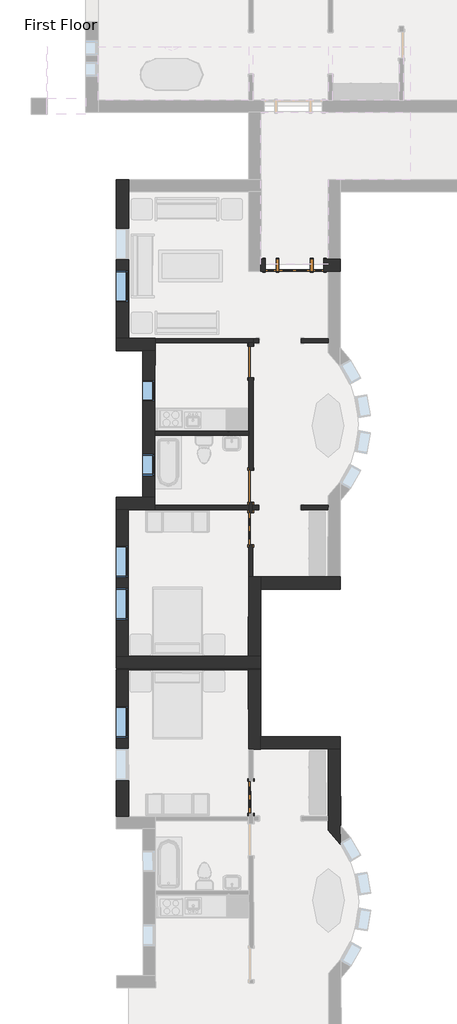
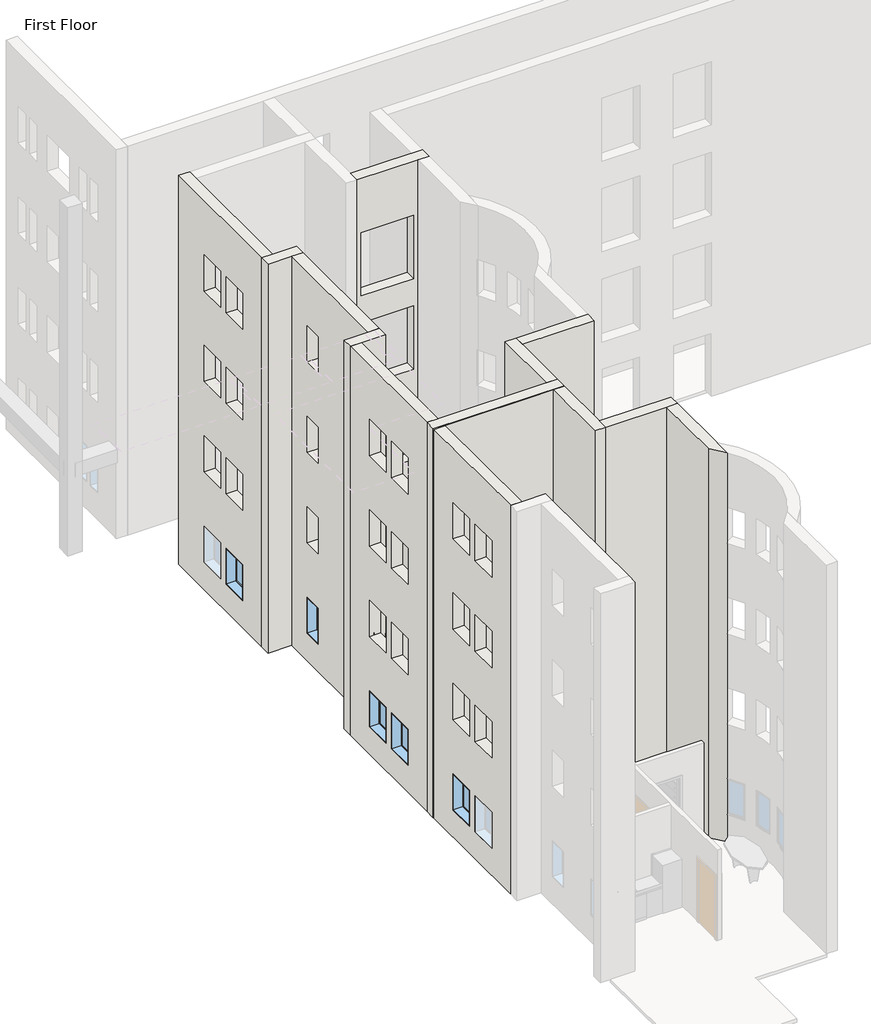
# One storey, part 8 of 21: 20 walls, 6 windows, 5 doors.
"""IFC4 building model written with IfcOpenShell, lengths in millimetres."""

from ifc_helpers import new_model, si_unit, frame, origin, origin_with_axes, place, context, project, spatial, polyline, circle_curve, outline, extrude, faceted_brep, transform, mapped, element, save
from ifc_brep_helpers import plane_surface, revolved_surface, advanced_brep
from components import door_829da954, door_2e3b4da2, door_a1797ceb, door_a3eb833a, door_dba5aa2e, window_60baf983, window_15c49d37, window_0e2fc6ce

model = new_model("IFC4")

# Units and contexts
model_context = context("Model", 3, world=origin())
ifc_project = project(units=[si_unit("LENGTHUNIT", "METRE", prefix="MILLI")], contexts=[model_context])

# Site, building, storey
site = spatial("IfcSite", under=ifc_project)
building = spatial("IfcBuilding", under=site)
storey = spatial("IfcBuildingStorey", under=building, Name="First Floor", Elevation=0.0)

# Doors
placement = place(None, origin())
door_shape = door_829da954(model_context)
element("IfcDoor", 1, ObjectType="Single-Decorative 2 : 36\" x 84\"", at=placement, inside=storey, context=model_context, shape_type="MappedRepresentation", body=[
    mapped(door_shape, transform((-26096.9008593, -15536.1896694, 0.0), x_axis=(0.0022766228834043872, -0.9999974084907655, 0.0), y_axis=(0.9999974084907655, 0.0022766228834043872, 0.0), z_axis=(0.0, 0.0, 1.0))),
])
door_2_shape = door_2e3b4da2(model_context)
element("IfcDoor", 2, ObjectType="Single-Decorative 2 : 36\" x 84\"", at=placement, inside=storey, context=model_context, shape_type="MappedRepresentation", body=[
    mapped(door_2_shape, transform((-26102.7694468, -7802.9176579, 0.0), x_axis=(0.0007588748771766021, 0.999999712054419, 0.0), y_axis=(-0.999999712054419, 0.0007588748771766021, 0.0), z_axis=(0.0, 0.0, 1.0))),
])
door_3_shape = door_a1797ceb(model_context)
element("IfcDoor", 3, ObjectType="Single-Flush : 36\" x 84\"", at=placement, inside=storey, context=model_context, shape_type="MappedRepresentation", body=[
    mapped(door_3_shape, transform((-26099.1288015, -3005.4940393, 0.0), x_axis=(0.0007588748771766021, 0.999999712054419, 0.0), y_axis=(-0.999999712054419, 0.0007588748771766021, 0.0), z_axis=(0.0, 0.0, 1.0))),
])
door_4_shape = door_a3eb833a(model_context)
element("IfcDoor", 4, ObjectType="Single-Flush : 36\" x 84\"", at=placement, inside=storey, context=model_context, shape_type="MappedRepresentation", body=[
    mapped(door_4_shape, transform((-26101.8442266, -6583.718009, 0.0), x_axis=(-0.0007588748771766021, -0.999999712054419, 0.0), y_axis=(0.999999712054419, -0.0007588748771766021, 0.0), z_axis=(0.0, 0.0, 1.0))),
])
door_5_shape = door_dba5aa2e(model_context)
element("IfcDoor", 5, ObjectType="Single-Raised Panel with Sidelights : 36\" x 84\"", at=placement, inside=storey, context=model_context, shape_type="MappedRepresentation", body=[
    mapped(door_5_shape, transform((-24841.3047997, -223.5602693, 0.0), x_axis=(0.9999997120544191, -0.0007588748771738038, 0.0), y_axis=(0.0007588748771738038, 0.9999997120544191, 0.0), z_axis=(0.0, 0.0, 1.0))),
])

# Walls
element("IfcWall", 6, ObjectType="Exterior - Brick on Mtl. Stud", at=placement, inside=storey, context=model_context, shape_type="Brep", body=[
    faceted_brep([(-23522.2264028, -400.7738358, 0.0), (-23874.6513013, -400.5063893, 0.0), (-24003.2387643, -400.4088075, 0.0), (-24002.9713178, -47.983909, 0.0), (-23874.3839563, -48.0814907, 0.0), (-23521.9589563, -48.3489373, 0.0), (-25679.6382816, -399.1366296, 0.0), (-25808.2257445, -399.0390478, 0.0), (-25807.9582981, -46.6141493, 0.0), (-25679.3708351, -46.7117311, 0.0), (-25808.2257445, -399.0390478, 13106.4), (-23874.6513013, -400.5063893, 13106.4), (-23522.2264028, -400.7738358, 13106.4), (-23521.9589563, -48.3489373, 13106.4), (-23874.3839563, -48.0814907, 13106.4), (-25807.9582981, -46.6141493, 13106.4), (-24003.2387643, -400.4088075, 2133.6), (-25679.6382816, -399.1366296, 2133.6), (-25679.6382816, -399.1366296, 6096.0), (-25679.6382816, -399.1366296, 8229.6), (-24003.2387643, -400.4088075, 8229.6), (-24003.2387643, -400.4088075, 6096.0), (-25679.6382816, -399.1366296, 3048.0), (-25679.6382816, -399.1366296, 5181.6), (-24003.2387643, -400.4088075, 5181.6), (-24003.2387643, -400.4088075, 3048.0), (-25679.6382816, -399.1366296, 9144.0), (-25679.6382816, -399.1366296, 11277.6), (-24003.2387643, -400.4088075, 11277.6), (-24003.2387643, -400.4088075, 9144.0), (-24002.9713178, -47.983909, 2133.6), (-25679.3708351, -46.7117311, 2133.6), (-25679.3708351, -46.7117311, 6096.0), (-24002.9713178, -47.983909, 6096.0), (-24002.9713178, -47.983909, 8229.6), (-25679.3708351, -46.7117311, 8229.6), (-25679.3708351, -46.7117311, 3048.0), (-24002.9713178, -47.983909, 3048.0), (-24002.9713178, -47.983909, 5181.6), (-25679.3708351, -46.7117311, 5181.6), (-25679.3708351, -46.7117311, 9144.0), (-24002.9713178, -47.983909, 9144.0), (-24002.9713178, -47.983909, 11277.6), (-25679.3708351, -46.7117311, 11277.6)], [[[0, 1, 2, 3, 4, 5]], [[6, 7, 8, 9]], [[10, 11, 12, 13, 14, 15]], [[16, 2, 1, 0, 12, 11, 10, 7, 6, 17], [18, 19, 20, 21], [22, 23, 24, 25], [26, 27, 28, 29]], [[5, 4, 3, 30, 31, 9, 8, 15, 14, 13], [32, 33, 34, 35], [36, 37, 38, 39], [40, 41, 42, 43]], [[7, 10, 15, 8]], [[12, 0, 5, 13]], [[30, 3, 2, 16]], [[31, 30, 16, 17]], [[9, 31, 17, 6]], [[33, 32, 18, 21]], [[34, 33, 21, 20]], [[35, 34, 20, 19]], [[32, 35, 19, 18]], [[37, 36, 22, 25]], [[38, 37, 25, 24]], [[39, 38, 24, 23]], [[36, 39, 23, 22]], [[41, 40, 26, 29]], [[42, 41, 29, 28]], [[43, 42, 28, 27]], [[40, 43, 27, 26]]]),
])
element("IfcWall", 7, ObjectType="Exterior - Brick on Mtl. Stud", at=placement, inside=storey, context=model_context, shape_type="Brep", body=[
    faceted_brep([(-29979.3234858, -11825.8769968, 0.0), (-25816.8996844, -11829.0357566, 0.0), (-25816.8996844, -11829.0357566, 13106.4), (-29979.3234858, -11825.8769968, 13106.4), (-29979.0560394, -11473.4520983, 0.0), (-29979.0560394, -11473.4520983, 13106.4), (-29626.6311408, -11473.7195448, 13106.4), (-26169.0571364, -11476.3434116, 13106.4), (-25816.6322379, -11476.6108581, 13106.4), (-25816.6322379, -11476.6108581, 0.0), (-26169.0571364, -11476.3434116, 0.0), (-29626.6311408, -11473.7195448, 0.0)], [[[0, 1, 2, 3]], [[4, 5, 6, 7, 8, 9, 10, 11]], [[1, 0, 4, 11, 10, 9]], [[3, 2, 8, 7, 6, 5]], [[2, 1, 9, 8]], [[0, 3, 5, 4]]]),
])
element("IfcWall", 8, ObjectType="Exterior - Brick on Mtl. Stud", at=placement, inside=storey, context=model_context, shape_type="Brep", body=[
    faceted_brep([(-25816.6322379, -11476.6108581, 0.0), (-25815.1648964, -9543.0364148, 0.0), (-25814.8974499, -9190.6115163, 0.0), (-25814.8974499, -9190.6115163, 13106.4), (-25815.1648964, -9543.0364148, 13106.4), (-25816.6322379, -11476.6108581, 13106.4), (-26169.0571364, -11476.3434116, 0.0), (-26169.0571364, -11476.3434116, 13106.4), (-26167.3223485, -9190.3440698, 13106.4), (-26167.3223485, -9190.3440698, 0.0)], [[[0, 1, 2, 3, 4, 5]], [[6, 7, 8, 9]], [[2, 1, 0, 6, 9]], [[5, 4, 3, 8, 7]], [[3, 2, 9, 8]], [[0, 5, 7, 6]]]),
])
element("IfcWall", 9, ObjectType="Exterior - Brick on Mtl. Stud", at=placement, inside=storey, context=model_context, shape_type="Brep", body=[
    faceted_brep([(-25815.1648964, -9543.0364148, 0.0), (-23529.1655547, -9544.7712028, 0.0), (-23529.1655547, -9544.7712028, 13106.4), (-25815.1648964, -9543.0364148, 13106.4), (-25814.8974499, -9190.6115163, 0.0), (-25814.8974499, -9190.6115163, 13106.4), (-23881.3230067, -9192.0788578, 13106.4), (-23528.8981082, -9192.3463043, 13106.4), (-23528.8981082, -9192.3463043, 0.0), (-23881.3230067, -9192.0788578, 0.0)], [[[0, 1, 2, 3]], [[4, 5, 6, 7, 8, 9]], [[1, 0, 4, 9, 8]], [[3, 2, 7, 6, 5]], [[2, 1, 8, 7]], [[0, 3, 5, 4]]]),
])
element("IfcWall", 10, ObjectType="Exterior - Brick on Mtl. Stud", at=placement, inside=storey, context=model_context, shape_type="SweptSolid", body=[
    extrude(outline(polyline([(176.2125, 0.0), (4395.7875, 0.0), (4395.7875, -13106.4), (176.2125, -13106.4), (176.2125, 0.0)]), holes=[polyline([(2438.4, -8229.6), (3352.8, -8229.6), (3352.8, -7010.4), (2438.4, -7010.4), (2438.4, -8229.6)]), polyline([(1219.2000001, -8229.6), (2133.6000001, -8229.6), (2133.6000001, -7010.4), (1219.2000001, -7010.4), (1219.2000001, -8229.6)]), polyline([(2438.4, -5181.6), (3352.8, -5181.6), (3352.8, -3962.4), (2438.4, -3962.4), (2438.4, -5181.6)]), polyline([(1219.2000001, -5181.6), (2133.6000001, -5181.6), (2133.6000001, -3962.4), (1219.2000001, -3962.4), (1219.2000001, -5181.6)]), polyline([(2438.4, -11277.6), (3352.8, -11277.6), (3352.8, -10058.4), (2438.4, -10058.4), (2438.4, -11277.6)]), polyline([(1219.2000001, -11277.6), (2133.6000001, -11277.6), (2133.6000001, -10058.4), (1219.2000001, -10058.4), (1219.2000001, -11277.6)]), polyline([(2438.4, -2133.6), (3352.8, -2133.6), (3352.8, -914.4), (2438.4, -914.4), (2438.4, -2133.6)]), polyline([(1219.2000001, -2133.6), (2133.6000001, -2133.6), (2133.6000001, -914.4), (1219.2000001, -914.4), (1219.2000001, -2133.6)])]), frame((-29626.7648641, -11649.9319941, 0.0), z_axis=(-0.999999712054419, 0.0007588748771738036, 0.0), x_axis=(0.0007588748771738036, 0.999999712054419, 0.0)), (0.0, 0.0, 1.0), 352.425),
])
element("IfcWall", 11, ObjectType="Exterior - Brick on Mtl. Stud", at=placement, inside=storey, context=model_context, shape_type="Brep", body=[
    faceted_brep([(-29975.8539099, -7253.8783133, 0.0), (-29623.4290114, -7254.1457598, 0.0), (-28861.4292308, -7254.7240225, 0.0), (-28861.4292308, -7254.7240225, 13106.4), (-29623.4290114, -7254.1457598, 13106.4), (-29975.8539099, -7253.8783133, 13106.4), (-29975.5864634, -6901.4534148, 0.0), (-29975.5864634, -6901.4534148, 13106.4), (-29213.5866828, -6902.0316775, 13106.4), (-28861.1617843, -6902.2991239, 13106.4), (-28861.1617843, -6902.2991239, 0.0), (-29213.5866828, -6902.0316775, 0.0)], [[[0, 1, 2, 3, 4, 5]], [[6, 7, 8, 9, 10, 11]], [[2, 1, 0, 6, 11, 10]], [[5, 4, 3, 9, 8, 7]], [[0, 5, 7, 6]], [[3, 2, 10, 9]]]),
])
element("IfcWall", 12, ObjectType="Exterior - Brick on Mtl. Stud", at=placement, inside=storey, context=model_context, shape_type="Brep", body=[
    faceted_brep([(-28857.9596549, -2682.725339, 0.0), (-28859.7137182, -4994.1246734, 0.0), (-28859.8100954, -5121.1246368, 0.0), (-28861.1617843, -6902.2991239, 0.0), (-29213.5866828, -6902.0316775, 0.0), (-29210.3845534, -2682.4578925, 0.0), (-28861.1617843, -6902.2991239, 13106.4), (-28857.9596549, -2682.725339, 13106.4), (-29210.3845534, -2682.4578925, 13106.4), (-29213.5866828, -6902.0316775, 13106.4), (-28860.6871271, -6276.824304, 8229.6), (-28860.2245169, -5667.2244796, 8229.6), (-28860.2245169, -5667.2244796, 7010.4), (-28860.6871271, -6276.824304, 7010.4), (-28859.0679916, -4143.2249184, 8229.6), (-28858.6053815, -3533.6250939, 8229.6), (-28858.6053815, -3533.6250939, 7010.4), (-28859.0679916, -4143.2249184, 7010.4), (-28860.6871271, -6276.824304, 5181.6), (-28860.2245169, -5667.2244796, 5181.6), (-28860.2245169, -5667.2244796, 3962.4), (-28860.6871271, -6276.824304, 3962.4), (-28859.0679916, -4143.2249184, 5181.6), (-28858.6053815, -3533.6250939, 5181.6), (-28858.6053815, -3533.6250939, 3962.4), (-28859.0679916, -4143.2249184, 3962.4), (-28860.6871271, -6276.824304, 11277.6), (-28860.2245169, -5667.2244796, 11277.6), (-28860.2245169, -5667.2244796, 10058.4), (-28860.6871271, -6276.824304, 10058.4), (-28859.0679916, -4143.2249184, 11277.6), (-28858.6053815, -3533.6250939, 11277.6), (-28858.6053815, -3533.6250939, 10058.4), (-28859.0679916, -4143.2249184, 10058.4), (-28860.6871271, -6276.824304, 2133.6), (-28860.2245169, -5667.2244796, 2133.6), (-28860.2245169, -5667.2244796, 914.4), (-28860.6871271, -6276.824304, 914.4), (-28859.0679916, -4143.2249184, 2133.6), (-28858.6053815, -3533.6250939, 2133.6), (-28858.6053815, -3533.6250939, 914.4), (-28859.0679916, -4143.2249184, 914.4), (-29213.1120256, -6276.5568576, 8229.6), (-29213.1120256, -6276.5568576, 7010.4), (-29212.6494154, -5666.9570331, 7010.4), (-29212.6494154, -5666.9570331, 8229.6), (-29211.4928901, -4142.9574719, 8229.6), (-29211.4928901, -4142.9574719, 7010.4), (-29211.03028, -3533.3576475, 7010.4), (-29211.03028, -3533.3576475, 8229.6), (-29213.1120256, -6276.5568576, 5181.6), (-29213.1120256, -6276.5568576, 3962.4), (-29212.6494154, -5666.9570331, 3962.4), (-29212.6494154, -5666.9570331, 5181.6), (-29211.4928901, -4142.9574719, 5181.6), (-29211.4928901, -4142.9574719, 3962.4), (-29211.03028, -3533.3576475, 3962.4), (-29211.03028, -3533.3576475, 5181.6), (-29213.1120256, -6276.5568576, 11277.6), (-29213.1120256, -6276.5568576, 10058.4), (-29212.6494154, -5666.9570331, 10058.4), (-29212.6494154, -5666.9570331, 11277.6), (-29211.4928901, -4142.9574719, 11277.6), (-29211.4928901, -4142.9574719, 10058.4), (-29211.03028, -3533.3576475, 10058.4), (-29211.03028, -3533.3576475, 11277.6), (-29213.1120256, -6276.5568576, 2133.6), (-29213.1120256, -6276.5568576, 914.4), (-29212.6494154, -5666.9570331, 914.4), (-29212.6494154, -5666.9570331, 2133.6), (-29211.4928901, -4142.9574719, 2133.6), (-29211.4928901, -4142.9574719, 914.4), (-29211.03028, -3533.3576475, 914.4), (-29211.03028, -3533.3576475, 2133.6)], [[[0, 1, 2, 3, 4, 5]], [[6, 7, 8, 9]], [[3, 2, 1, 0, 7, 6], [10, 11, 12, 13], [14, 15, 16, 17], [18, 19, 20, 21], [22, 23, 24, 25], [26, 27, 28, 29], [30, 31, 32, 33], [34, 35, 36, 37], [38, 39, 40, 41]], [[4, 9, 8, 5], [42, 43, 44, 45], [46, 47, 48, 49], [50, 51, 52, 53], [54, 55, 56, 57], [58, 59, 60, 61], [62, 63, 64, 65], [66, 67, 68, 69], [70, 71, 72, 73]], [[3, 6, 9, 4]], [[0, 5, 8, 7]], [[43, 42, 10, 13]], [[44, 43, 13, 12]], [[45, 44, 12, 11]], [[42, 45, 11, 10]], [[47, 46, 14, 17]], [[48, 47, 17, 16]], [[49, 48, 16, 15]], [[46, 49, 15, 14]], [[51, 50, 18, 21]], [[52, 51, 21, 20]], [[53, 52, 20, 19]], [[50, 53, 19, 18]], [[55, 54, 22, 25]], [[56, 55, 25, 24]], [[57, 56, 24, 23]], [[54, 57, 23, 22]], [[59, 58, 26, 29]], [[60, 59, 29, 28]], [[61, 60, 28, 27]], [[58, 61, 27, 26]], [[63, 62, 30, 33]], [[64, 63, 33, 32]], [[65, 64, 32, 31]], [[62, 65, 31, 30]], [[67, 66, 34, 37]], [[68, 67, 37, 36]], [[69, 68, 36, 35]], [[66, 69, 35, 34]], [[71, 70, 38, 41]], [[72, 71, 41, 40]], [[73, 72, 40, 39]], [[70, 73, 39, 38]]]),
])
element("IfcWall", 13, ObjectType="Exterior - Brick on Mtl. Stud", at=placement, inside=storey, context=model_context, shape_type="Brep", body=[
    faceted_brep([(-28857.6922084, -2330.3004404, 13106.4), (-28857.6922084, -2330.3004404, 0.0), (-29619.691989, -2329.7221778, 0.0), (-29972.1168875, -2329.4547313, 0.0), (-29972.1168875, -2329.4547313, 13106.4), (-29619.691989, -2329.7221778, 13106.4), (-28857.9596549, -2682.725339, 0.0), (-28857.9596549, -2682.725339, 13106.4), (-29210.3845534, -2682.4578925, 13106.4), (-29972.384334, -2681.8796298, 13106.4), (-29972.384334, -2681.8796298, 0.0), (-29210.3845534, -2682.4578925, 0.0)], [[[0, 1, 2, 3, 4, 5]], [[6, 7, 8, 9, 10, 11]], [[3, 2, 1, 6, 11, 10]], [[0, 5, 4, 9, 8, 7]], [[0, 7, 6, 1]], [[4, 3, 10, 9]]]),
])
element("IfcWall", 14, ObjectType="Exterior - Brick on Mtl. Stud", at=placement, inside=storey, context=model_context, shape_type="Brep", body=[
    faceted_brep([(-29616.222413, 2242.2765057, 0.0), (-29616.4898595, 1889.8516072, 0.0), (-29619.691989, -2329.7221778, 0.0), (-29972.1168875, -2329.4547313, 0.0), (-29968.6473115, 2242.5439522, 0.0), (-29619.691989, -2329.7221778, 13106.4), (-29616.4898595, 1889.8516072, 13106.4), (-29616.222413, 2242.2765057, 13106.4), (-29968.6473115, 2242.5439522, 13106.4), (-29972.1168875, -2329.4547313, 13106.4), (-29618.900492, -1286.7349781, 8229.6), (-29618.2065768, -372.3352414, 8229.6), (-29618.2065768, -372.3352414, 7010.4), (-29618.900492, -1286.7349781, 7010.4), (-29617.9752717, -67.5353292, 8229.6), (-29617.2813565, 846.8644075, 8229.6), (-29617.2813565, 846.8644075, 7010.4), (-29617.9752717, -67.5353292, 7010.4), (-29618.900492, -1286.7349781, 5181.6), (-29618.2065768, -372.3352414, 5181.6), (-29618.2065768, -372.3352414, 3962.4), (-29618.900492, -1286.7349781, 3962.4), (-29617.9752717, -67.5353292, 5181.6), (-29617.2813565, 846.8644075, 5181.6), (-29617.2813565, 846.8644075, 3962.4), (-29617.9752717, -67.5353292, 3962.4), (-29618.900492, -1286.7349781, 11277.6), (-29618.2065768, -372.3352414, 11277.6), (-29618.2065768, -372.3352414, 10058.4), (-29618.900492, -1286.7349781, 10058.4), (-29617.9752717, -67.5353292, 11277.6), (-29617.2813565, 846.8644075, 11277.6), (-29617.2813565, 846.8644075, 10058.4), (-29617.9752717, -67.5353292, 10058.4), (-29618.900492, -1286.7349781, 2133.6), (-29618.2065768, -372.3352414, 2133.6), (-29618.2065768, -372.3352414, 914.4), (-29618.900492, -1286.7349781, 914.4), (-29617.9752717, -67.5353292, 2133.6), (-29617.2813565, 846.8644075, 2133.6), (-29617.2813565, 846.8644075, 914.4), (-29617.9752717, -67.5353292, 914.4), (-29971.3253905, -1286.4675316, 8229.6), (-29971.3253905, -1286.4675316, 7010.4), (-29970.6314753, -372.0677949, 7010.4), (-29970.6314753, -372.0677949, 8229.6), (-29970.4001702, -67.2678827, 8229.6), (-29970.4001702, -67.2678827, 7010.4), (-29969.706255, 847.131854, 7010.4), (-29969.706255, 847.131854, 8229.6), (-29971.3253905, -1286.4675316, 5181.6), (-29971.3253905, -1286.4675316, 3962.4), (-29970.6314753, -372.0677949, 3962.4), (-29970.6314753, -372.0677949, 5181.6), (-29970.4001702, -67.2678827, 5181.6), (-29970.4001702, -67.2678827, 3962.4), (-29969.706255, 847.131854, 3962.4), (-29969.706255, 847.131854, 5181.6), (-29971.3253905, -1286.4675316, 11277.6), (-29971.3253905, -1286.4675316, 10058.4), (-29970.6314753, -372.0677949, 10058.4), (-29970.6314753, -372.0677949, 11277.6), (-29970.4001702, -67.2678827, 11277.6), (-29970.4001702, -67.2678827, 10058.4), (-29969.706255, 847.131854, 10058.4), (-29969.706255, 847.131854, 11277.6), (-29971.3253905, -1286.4675316, 2133.6), (-29971.3253905, -1286.4675316, 914.4), (-29970.6314753, -372.0677949, 914.4), (-29970.6314753, -372.0677949, 2133.6), (-29970.4001702, -67.2678827, 2133.6), (-29970.4001702, -67.2678827, 914.4), (-29969.706255, 847.131854, 914.4), (-29969.706255, 847.131854, 2133.6)], [[[0, 1, 2, 3, 4]], [[5, 6, 7, 8, 9]], [[2, 1, 0, 7, 6, 5], [10, 11, 12, 13], [14, 15, 16, 17], [18, 19, 20, 21], [22, 23, 24, 25], [26, 27, 28, 29], [30, 31, 32, 33], [34, 35, 36, 37], [38, 39, 40, 41]], [[3, 9, 8, 4], [42, 43, 44, 45], [46, 47, 48, 49], [50, 51, 52, 53], [54, 55, 56, 57], [58, 59, 60, 61], [62, 63, 64, 65], [66, 67, 68, 69], [70, 71, 72, 73]], [[2, 5, 9, 3]], [[7, 0, 4, 8]], [[43, 42, 10, 13]], [[44, 43, 13, 12]], [[45, 44, 12, 11]], [[42, 45, 11, 10]], [[47, 46, 14, 17]], [[48, 47, 17, 16]], [[49, 48, 16, 15]], [[46, 49, 15, 14]], [[51, 50, 18, 21]], [[52, 51, 21, 20]], [[53, 52, 20, 19]], [[50, 53, 19, 18]], [[55, 54, 22, 25]], [[56, 55, 25, 24]], [[57, 56, 24, 23]], [[54, 57, 23, 22]], [[59, 58, 26, 29]], [[60, 59, 29, 28]], [[61, 60, 28, 27]], [[58, 61, 27, 26]], [[63, 62, 30, 33]], [[64, 63, 33, 32]], [[65, 64, 32, 31]], [[62, 65, 31, 30]], [[67, 66, 34, 37]], [[68, 67, 37, 36]], [[69, 68, 36, 35]], [[66, 69, 35, 34]], [[71, 70, 38, 41]], [[72, 71, 41, 40]], [[73, 72, 40, 39]], [[70, 73, 39, 38]]]),
])
element("IfcWall", 15, ObjectType="Exterior - Brick on Mtl. Stud", at=placement, inside=storey, context=model_context, shape_type="Brep", body=[
    faceted_brep([(-29803.1452863, -11871.1428922, 0.0), (-29626.3298516, -11870.7403491, 0.0), (-26168.763812, -11862.8687548, 0.0), (-25816.3397253, -11862.0664159, 0.0), (-25816.3397253, -11862.0664159, 13106.4), (-26168.763812, -11862.8687548, 13106.4), (-29626.3298516, -11870.7403491, 13106.4), (-29803.1452863, -11871.1428922, 13106.4), (-29802.8778386, -11518.71637, 0.0), (-29802.8778386, -11518.71637, 13106.4), (-25817.1420641, -11509.6423293, 13106.4), (-25817.1420641, -11509.6423293, 0.0)], [[[0, 1, 2, 3, 4, 5, 6, 7]], [[8, 9, 10, 11]], [[3, 2, 1, 0, 8, 11]], [[7, 6, 5, 4, 10, 9]], [[4, 3, 11, 10]], [[0, 7, 9, 8]]]),
])
element("IfcWall", 16, ObjectType="Exterior - Brick on Mtl. Stud", at=placement, inside=storey, context=model_context, shape_type="Brep", body=[
    faceted_brep([(-26168.763812, -11862.8687548, 0.0), (-26163.5594521, -14148.8628306, 0.0), (-26163.5594521, -14148.8628306, 13106.4), (-26168.763812, -11862.8687548, 13106.4), (-25816.3397253, -11862.0664159, 0.0), (-25816.3397253, -11862.0664159, 13106.4), (-25811.9377042, -13795.6364051, 13106.4), (-25811.1353654, -14148.0604918, 13106.4), (-25811.1353654, -14148.0604918, 0.0), (-25811.9377042, -13795.6364051, 0.0)], [[[0, 1, 2, 3]], [[4, 5, 6, 7, 8, 9]], [[1, 0, 4, 9, 8]], [[3, 2, 7, 6, 5]], [[2, 1, 8, 7]], [[0, 3, 5, 4]]]),
])
element("IfcWall", 17, ObjectType="Exterior - Brick on Mtl. Stud", at=placement, inside=storey, context=model_context, shape_type="Brep", body=[
    faceted_brep([(-25811.1353654, -14148.0604918, 0.0), (-23877.5653763, -14143.6584707, 0.0), (-23525.1412896, -14142.8561318, 0.0), (-23525.1412896, -14142.8561318, 13106.4), (-23877.5653763, -14143.6584707, 13106.4), (-25811.1353654, -14148.0604918, 13106.4), (-25811.9377042, -13795.6364051, 0.0), (-25811.9377042, -13795.6364051, 13106.4), (-23525.9436284, -13790.4320452, 13106.4), (-23525.9436284, -13790.4320452, 0.0)], [[[0, 1, 2, 3, 4, 5]], [[6, 7, 8, 9]], [[2, 1, 0, 6, 9]], [[5, 4, 3, 8, 7]], [[3, 2, 9, 8]], [[0, 5, 7, 6]]]),
])
element("IfcWall", 18, ObjectType="Exterior - Brick on Mtl. Stud", at=placement, inside=storey, context=model_context, shape_type="AdvancedBrep", body=[
    advanced_brep(
    [(-23872.248544, -16479.0555708, 0.0), (-23872.8742241, -16204.2281307, 0.0), (-23873.1633552, -16077.2284598, 0.0), (-23877.5653763, -14143.6584707, 0.0), (-23525.1412896, -14142.8561318, 0.0), (-23520.152293, -16334.2527188, 0.0), (-23518.8821774, -16892.1458572, 0.0), (-23877.5653763, -14143.6584707, 13106.4), (-23872.248544, -16479.0555708, 13106.4), (-23518.8821774, -16892.1458572, 13106.4), (-23520.152293, -16334.2527188, 13106.4), (-23525.1412896, -14142.8561318, 13106.4), (-23518.8821774, -16892.1458572, 11277.6), (-23518.9943882, -16842.857737, 11277.6), (-23518.9943882, -16842.857737, 10058.4), (-23518.8821774, -16892.1458572, 10058.4), (-23518.8821774, -16892.1458572, 8229.6), (-23518.9943882, -16842.857737, 8229.6), (-23518.9943882, -16842.857737, 7010.4), (-23518.8821774, -16892.1458572, 7010.4), (-23518.8821774, -16892.1458572, 5181.6), (-23518.9943882, -16842.857737, 5181.6), (-23518.9943882, -16842.857737, 3962.4), (-23518.8821774, -16892.1458572, 3962.4), (-23518.8821774, -16892.1458572, 2133.6), (-23518.9943882, -16842.857737, 2133.6), (-23518.9943882, -16842.857737, 914.4), (-23518.8821774, -16892.1458572, 914.4), (-23524.3694861, -16884.3695107, 914.4), (-23524.3694861, -16884.3695107, 2133.6), (-23524.3694861, -16884.3695107, 3962.4), (-23524.3694861, -16884.3695107, 5181.6), (-23524.3694861, -16884.3695107, 7010.4), (-23524.3694861, -16884.3695107, 8229.6), (-23524.3694861, -16884.3695107, 10058.4), (-23524.3694861, -16884.3695107, 11277.6), (-23540.9665948, -16855.4814817, 914.4), (-23540.9665948, -16855.4814817, 2133.6), (-23540.9665948, -16855.4814817, 10058.4), (-23540.9665948, -16855.4814817, 11277.6), (-23540.9665948, -16855.4814817, 3962.4), (-23540.9665948, -16855.4814817, 5181.6), (-23540.9665948, -16855.4814817, 7010.4), (-23540.9665948, -16855.4814817, 8229.6)],
    [
        (0, 1),
        (1, 2),
        (2, 3),
        (3, 4),
        (4, 5),
        (5, 6),
        (6, 0, circle_curve(frame((-25868.0475266, -18543.9889514, 0.0), z_axis=(0.0, 0.0, 1.0), x_axis=(0.0022766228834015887, -0.9999974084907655, 0.0)), 2871.7875)),
        (7, 8),
        (8, 9, circle_curve(frame((-25868.0475266, -18543.9889514, 13106.4), z_axis=(0.0, 0.0, -1.0), x_axis=(0.0022766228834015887, -0.9999974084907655, 0.0)), 2871.7875)),
        (9, 10),
        (10, 11),
        (11, 7),
        (0, 8),
        (7, 3),
        (4, 11),
        (9, 12),
        (12, 13),
        (13, 14),
        (14, 15),
        (15, 16),
        (16, 17),
        (17, 18),
        (18, 19),
        (19, 20),
        (20, 21),
        (21, 22),
        (22, 23),
        (23, 24),
        (24, 25),
        (25, 26),
        (26, 27),
        (27, 6),
        (27, 28, circle_curve(frame((-25868.0475266, -18543.9889514, 914.4), z_axis=(0.0, 0.0, 1.0), x_axis=(0.0022766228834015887, -0.9999974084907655, 0.0)), 2871.7875)),
        (28, 29),
        (29, 24, circle_curve(frame((-25868.0475266, -18543.9889514, 2133.6), z_axis=(0.0, 0.0, -1.0), x_axis=(0.0022766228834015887, -0.9999974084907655, 0.0)), 2871.7875)),
        (23, 30, circle_curve(frame((-25868.0475266, -18543.9889514, 3962.4), z_axis=(0.0, 0.0, 1.0), x_axis=(0.0022766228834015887, -0.9999974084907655, 0.0)), 2871.7875)),
        (30, 31),
        (31, 20, circle_curve(frame((-25868.0475266, -18543.9889514, 5181.6), z_axis=(0.0, 0.0, -1.0), x_axis=(0.0022766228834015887, -0.9999974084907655, 0.0)), 2871.7875)),
        (19, 32, circle_curve(frame((-25868.0475266, -18543.9889514, 7010.4), z_axis=(0.0, 0.0, 1.0), x_axis=(0.0022766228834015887, -0.9999974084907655, 0.0)), 2871.7875)),
        (32, 33),
        (33, 16, circle_curve(frame((-25868.0475266, -18543.9889514, 8229.6), z_axis=(0.0, 0.0, -1.0), x_axis=(0.0022766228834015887, -0.9999974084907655, 0.0)), 2871.7875)),
        (15, 34, circle_curve(frame((-25868.0475266, -18543.9889514, 10058.4), z_axis=(0.0, 0.0, 1.0), x_axis=(0.0022766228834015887, -0.9999974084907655, 0.0)), 2871.7875)),
        (34, 35),
        (35, 12, circle_curve(frame((-25868.0475266, -18543.9889514, 11277.6), z_axis=(0.0, 0.0, -1.0), x_axis=(0.0022766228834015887, -0.9999974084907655, 0.0)), 2871.7875)),
        (36, 37),
        (37, 29),
        (28, 36),
        (26, 36),
        (25, 37),
        (38, 39),
        (39, 35),
        (34, 38),
        (14, 38),
        (13, 39),
        (40, 41),
        (41, 31),
        (30, 40),
        (22, 40),
        (21, 41),
        (42, 43),
        (43, 33),
        (32, 42),
        (18, 42),
        (17, 43),
    ],
    [
        plane_surface(frame((-23877.9665457, -13967.4464273, 0.0), z_axis=(0.0, 0.0, -1.0), x_axis=(0.9999974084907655, 0.002276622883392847, 0.0))),
        plane_surface(frame((-23872.4152284, -16405.8401082, 13106.4), z_axis=(0.0, 0.0, 1.0), x_axis=(0.9999974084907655, 0.002276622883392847, 0.0))),
        plane_surface(frame((-23877.9665457, -13967.4464273, 0.0), z_axis=(-0.9999974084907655, -0.0022766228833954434, 0.0), x_axis=(0.0022766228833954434, -0.9999974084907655, 0.0))),
        plane_surface(frame((-23525.542459, -13966.6440885, 0.0), z_axis=(0.9999974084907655, 0.0022766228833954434, 0.0), x_axis=(-0.0022766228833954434, 0.9999974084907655, 0.0))),
        plane_surface(frame((-25987.3474087, -14148.4616612, 0.0), z_axis=(-0.002276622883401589, 0.9999974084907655, 0.0), x_axis=(0.9999974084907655, 0.002276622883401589, 0.0))),
        revolved_surface(polyline([(-25861.509549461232, -21415.769009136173, 0.0), (-25861.509549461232, -21415.769009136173, 13106.399999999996)]), (-25868.0475266, -18543.9889514, 0.0), (0.0, 0.0, -0.9999999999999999)),
        plane_surface(frame((-23237.2843626, -17384.0543356, 2133.6), z_axis=(0.8670814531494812, 0.4981663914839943, 0.0), x_axis=(0.0, 0.0, 1.0))),
        plane_surface(frame((-22933.0717066, -17209.2743071, 914.4), z_axis=(0.0, 0.0, 1.0), x_axis=(-0.8670814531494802, -0.4981663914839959, 0.0))),
        plane_surface(frame((-23236.7539389, -16680.7014533, 914.4), z_axis=(0.4981663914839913, -0.8670814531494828, 0.0), x_axis=(-0.8670814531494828, -0.4981663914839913, 0.0))),
        plane_surface(frame((-23236.7539389, -16680.7014533, 2133.6), z_axis=(0.0, 0.0, -1.0), x_axis=(-0.8670814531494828, -0.4981663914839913, 0.0))),
        plane_surface(frame((-23237.2843626, -17384.0543356, 11277.6), z_axis=(0.8670814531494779, 0.4981663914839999, 0.0), x_axis=(0.0, 0.0, 1.0))),
        plane_surface(frame((-22933.0717066, -17209.2743071, 10058.4), z_axis=(0.0, 0.0, 1.0), x_axis=(-0.8670814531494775, -0.49816639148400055, 0.0))),
        plane_surface(frame((-23236.7539389, -16680.7014533, 10058.4), z_axis=(0.4981663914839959, -0.8670814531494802, 0.0), x_axis=(-0.8670814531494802, -0.4981663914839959, 0.0))),
        plane_surface(frame((-23236.7539389, -16680.7014533, 11277.6), z_axis=(0.0, 0.0, -1.0), x_axis=(-0.8670814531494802, -0.4981663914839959, 0.0))),
        plane_surface(frame((-23237.2843626, -17384.0543356, 5181.6), z_axis=(0.8670814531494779, 0.4981663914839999, 0.0), x_axis=(0.0, 0.0, 1.0))),
        plane_surface(frame((-22933.0717066, -17209.2743071, 3962.4), z_axis=(0.0, 0.0, 1.0), x_axis=(-0.8670814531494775, -0.49816639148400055, 0.0))),
        plane_surface(frame((-23236.7539389, -16680.7014533, 3962.4), z_axis=(0.4981663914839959, -0.8670814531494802, 0.0), x_axis=(-0.8670814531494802, -0.4981663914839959, 0.0))),
        plane_surface(frame((-23236.7539389, -16680.7014533, 5181.6), z_axis=(0.0, 0.0, -1.0), x_axis=(-0.8670814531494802, -0.4981663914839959, 0.0))),
        plane_surface(frame((-23237.2843626, -17384.0543356, 8229.6), z_axis=(0.8670814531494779, 0.4981663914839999, 0.0), x_axis=(0.0, 0.0, 1.0))),
        plane_surface(frame((-22933.0717066, -17209.2743071, 7010.4), z_axis=(0.0, 0.0, 1.0), x_axis=(-0.8670814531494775, -0.49816639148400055, 0.0))),
        plane_surface(frame((-23236.7539389, -16680.7014533, 7010.4), z_axis=(0.4981663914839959, -0.8670814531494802, 0.0), x_axis=(-0.8670814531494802, -0.4981663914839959, 0.0))),
        plane_surface(frame((-23236.7539389, -16680.7014533, 8229.6), z_axis=(0.0, 0.0, -1.0), x_axis=(-0.8670814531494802, -0.4981663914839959, 0.0))),
    ],
    [
        (0, [[1, 2, 3, 4, 5, 6, 7]]),
        (1, [[8, 9, 10, 11, 12]]),
        (2, [[-3, -2, -1, 13, -8, 14]]),
        (3, [[-6, -5, 15, -11, -10, 16, 17, 18, 19, 20, 21, 22, 23, 24, 25, 26, 27, 28, 29, 30, 31, 32]]),
        (4, [[-14, -12, -15, -4]]),
        (5, [[-13, -7, -32, 33, 34, 35, -28, 36, 37, 38, -24, 39, 40, 41, -20, 42, 43, 44, -16, -9]]),
        (6, [[45, 46, -34, 47]]),
        (7, [[48, -47, -33, -31]]),
        (8, [[-45, -48, -30, 49]]),
        (9, [[-49, -29, -35, -46]]),
        (10, [[50, 51, -43, 52]]),
        (11, [[53, -52, -42, -19]]),
        (12, [[-50, -53, -18, 54]]),
        (13, [[-54, -17, -44, -51]]),
        (14, [[55, 56, -37, 57]]),
        (15, [[58, -57, -36, -27]]),
        (16, [[-55, -58, -26, 59]]),
        (17, [[-59, -25, -38, -56]]),
        (18, [[60, 61, -40, 62]]),
        (19, [[63, -62, -39, -23]]),
        (20, [[-60, -63, -22, 64]]),
        (21, [[-64, -21, -41, -61]]),
    ],
),
])
element("IfcWall", 19, ObjectType="Exterior - Brick on Mtl. Stud", at=placement, inside=storey, context=model_context, shape_type="Brep", body=[
    faceted_brep([(-29969.1475573, -16091.1067529, 0.0), (-29978.7539383, -11871.542688, 0.0), (-29803.1452863, -11871.1428922, 0.0), (-29626.3298516, -11870.7403491, 0.0), (-29616.7234706, -16090.3044141, 0.0), (-29978.7539383, -11871.542688, 13106.4), (-29969.1475573, -16091.1067529, 13106.4), (-29616.7234706, -16090.3044141, 13106.4), (-29626.3298516, -11870.7403491, 13106.4), (-29803.1452863, -11871.1428922, 13106.4), (-29973.6037905, -14133.7243255, 8229.6), (-29971.5220465, -15048.1219558, 8229.6), (-29971.5220465, -15048.1219558, 7010.4), (-29973.6037905, -14133.7243255, 7010.4), (-29976.3794491, -12914.527485, 8229.6), (-29974.2977052, -13828.9251154, 8229.6), (-29974.2977052, -13828.9251154, 7010.4), (-29976.3794491, -12914.527485, 7010.4), (-29973.6037905, -14133.7243255, 5181.6), (-29971.5220465, -15048.1219558, 5181.6), (-29971.5220465, -15048.1219558, 3962.4), (-29973.6037905, -14133.7243255, 3962.4), (-29976.3794491, -12914.527485, 5181.6), (-29974.2977052, -13828.9251154, 5181.6), (-29974.2977052, -13828.9251154, 3962.4), (-29976.3794491, -12914.527485, 3962.4), (-29973.6037905, -14133.7243255, 11277.6), (-29971.5220465, -15048.1219558, 11277.6), (-29971.5220465, -15048.1219558, 10058.4), (-29973.6037905, -14133.7243255, 10058.4), (-29976.3794491, -12914.527485, 11277.6), (-29974.2977052, -13828.9251154, 11277.6), (-29974.2977052, -13828.9251154, 10058.4), (-29976.3794491, -12914.527485, 10058.4), (-29973.6037905, -14133.7243255, 2133.6), (-29971.5220465, -15048.1219558, 2133.6), (-29971.5220465, -15048.1219558, 914.4), (-29973.6037905, -14133.7243255, 914.4), (-29976.3794491, -12914.527485, 2133.6), (-29974.2977052, -13828.9251154, 2133.6), (-29974.2977052, -13828.9251154, 914.4), (-29976.3794491, -12914.527485, 914.4), (-29621.1797038, -14132.9219867, 8229.6), (-29621.1797038, -14132.9219867, 7010.4), (-29619.0979598, -15047.319617, 7010.4), (-29619.0979598, -15047.319617, 8229.6), (-29623.9553624, -12913.7251462, 8229.6), (-29623.9553624, -12913.7251462, 7010.4), (-29621.8736185, -13828.1227765, 7010.4), (-29621.8736185, -13828.1227765, 8229.6), (-29621.1797038, -14132.9219867, 5181.6), (-29621.1797038, -14132.9219867, 3962.4), (-29619.0979598, -15047.319617, 3962.4), (-29619.0979598, -15047.319617, 5181.6), (-29623.9553624, -12913.7251462, 5181.6), (-29623.9553624, -12913.7251462, 3962.4), (-29621.8736185, -13828.1227765, 3962.4), (-29621.8736185, -13828.1227765, 5181.6), (-29621.1797038, -14132.9219867, 11277.6), (-29621.1797038, -14132.9219867, 10058.4), (-29619.0979598, -15047.319617, 10058.4), (-29619.0979598, -15047.319617, 11277.6), (-29623.9553624, -12913.7251462, 11277.6), (-29623.9553624, -12913.7251462, 10058.4), (-29621.8736185, -13828.1227765, 10058.4), (-29621.8736185, -13828.1227765, 11277.6), (-29621.1797038, -14132.9219867, 2133.6), (-29621.1797038, -14132.9219867, 914.4), (-29619.0979598, -15047.319617, 914.4), (-29619.0979598, -15047.319617, 2133.6), (-29623.9553624, -12913.7251462, 2133.6), (-29623.9553624, -12913.7251462, 914.4), (-29621.8736185, -13828.1227765, 914.4), (-29621.8736185, -13828.1227765, 2133.6)], [[[0, 1, 2, 3, 4]], [[5, 6, 7, 8, 9]], [[1, 0, 6, 5], [10, 11, 12, 13], [14, 15, 16, 17], [18, 19, 20, 21], [22, 23, 24, 25], [26, 27, 28, 29], [30, 31, 32, 33], [34, 35, 36, 37], [38, 39, 40, 41]], [[3, 8, 7, 4], [42, 43, 44, 45], [46, 47, 48, 49], [50, 51, 52, 53], [54, 55, 56, 57], [58, 59, 60, 61], [62, 63, 64, 65], [66, 67, 68, 69], [70, 71, 72, 73]], [[1, 5, 9, 8, 3, 2]], [[6, 0, 4, 7]], [[43, 42, 10, 13]], [[44, 43, 13, 12]], [[45, 44, 12, 11]], [[42, 45, 11, 10]], [[47, 46, 14, 17]], [[48, 47, 17, 16]], [[49, 48, 16, 15]], [[46, 49, 15, 14]], [[51, 50, 18, 21]], [[52, 51, 21, 20]], [[53, 52, 20, 19]], [[50, 53, 19, 18]], [[55, 54, 22, 25]], [[56, 55, 25, 24]], [[57, 56, 24, 23]], [[54, 57, 23, 22]], [[59, 58, 26, 29]], [[60, 59, 29, 28]], [[61, 60, 28, 27]], [[58, 61, 27, 26]], [[63, 62, 30, 33]], [[64, 63, 33, 32]], [[65, 64, 32, 31]], [[62, 65, 31, 30]], [[67, 66, 34, 37]], [[68, 67, 37, 36]], [[69, 68, 36, 35]], [[66, 69, 35, 34]], [[71, 70, 38, 41]], [[72, 71, 41, 40]], [[73, 72, 40, 39]], [[70, 73, 39, 38]]]),
])
element("IfcWall", 20, ObjectType="Interior - 5\" Partition (2-hr)", at=placement, inside=storey, context=model_context, shape_type="Brep", body=[
    faceted_brep([(-28857.7885855, -2457.3004039, 0.0), (-26162.2143617, -2459.346008, 0.0), (-26035.2143982, -2459.4423851, 0.0), (-26035.2143982, -2459.4423851, 3048.0), (-26162.2143617, -2459.346008, 3048.0), (-28857.7885855, -2457.3004039, 3048.0), (-28857.6922084, -2330.3004404, 0.0), (-28857.6922084, -2330.3004404, 3048.0), (-26035.1180211, -2332.4424217, 3048.0), (-26035.1180211, -2332.4424217, 0.0)], [[[0, 1, 2, 3, 4, 5]], [[6, 7, 8, 9]], [[2, 1, 0, 6, 9]], [[5, 4, 3, 8, 7]], [[3, 2, 9, 8]], [[0, 5, 7, 6]]]),
])
element("IfcWall", 21, ObjectType="Interior - 5\" Partition (2-hr)", at=placement, inside=storey, context=model_context, shape_type="Brep", body=[
    faceted_brep([(-26035.2143982, -2459.4423851, 0.0), (-26035.2818622, -2548.3423595, 0.0), (-26162.2818256, -2548.2459824, 0.0), (-26162.2143617, -2459.346008, 0.0), (-26038.6912025, -7040.9660659, 0.0), (-26038.7586664, -7129.8660403, 0.0), (-26038.8550435, -7256.8660037, 0.0), (-26038.9225075, -7345.7659781, 0.0), (-26165.922471, -7345.669601, 0.0), (-26165.855007, -7256.7696266, 0.0), (-26165.7586299, -7129.7696632, 0.0), (-26165.6911659, -7040.8696888, 0.0), (-26164.9972507, -6126.4699521, 0.0), (-26164.2358715, -5123.170241, 0.0), (-26164.1394944, -4996.1702775, 0.0), (-26162.9757408, -3462.6457191, 0.0), (-26035.9757774, -3462.7420962, 0.0), (-26037.9972873, -6126.5663292, 0.0), (-26039.6164227, -8260.1657148, 0.0), (-26040.322385, -9190.440447, 0.0), (-26167.3223485, -9190.3440698, 0.0), (-26166.6163861, -8260.0693377, 0.0), (-26040.322385, -9190.440447, 3048.0), (-26038.8550435, -7256.8660037, 3048.0), (-26038.7586664, -7129.8660403, 3048.0), (-26035.2143982, -2459.4423851, 3048.0), (-26162.2143617, -2459.346008, 3048.0), (-26164.1394944, -4996.1702775, 3048.0), (-26164.2358715, -5123.170241, 3048.0), (-26165.7586299, -7129.7696632, 3048.0), (-26165.855007, -7256.7696266, 3048.0), (-26167.3223485, -9190.3440698, 3048.0), (-26038.9225075, -7345.7659781, 2133.6), (-26038.6912025, -7040.9660659, 2133.6), (-26037.9972873, -6126.5663292, 2133.6), (-26035.9757774, -3462.7420962, 2133.6), (-26035.2818622, -2548.3423595, 2133.6), (-26039.6164227, -8260.1657148, 2133.6), (-26165.922471, -7345.669601, 2133.6), (-26166.6163861, -8260.0693377, 2133.6), (-26162.2818256, -2548.2459824, 2133.6), (-26162.9757408, -3462.6457191, 2133.6), (-26164.9972507, -6126.4699521, 2133.6), (-26165.6911659, -7040.8696888, 2133.6)], [[[0, 1, 2, 3]], [[4, 5, 6, 7, 8, 9, 10, 11]], [[12, 13, 14, 15, 16, 17]], [[18, 19, 20, 21]], [[22, 23, 24, 25, 26, 27, 28, 29, 30, 31]], [[32, 7, 6, 5, 4, 33, 34, 17, 16, 35, 36, 1, 0, 25, 24, 23, 22, 19, 18, 37]], [[11, 10, 9, 8, 38, 39, 21, 20, 31, 30, 29, 28, 27, 26, 3, 2, 40, 41, 15, 14, 13, 12, 42, 43]], [[19, 22, 31, 20]], [[25, 0, 3, 26]], [[40, 2, 1, 36]], [[41, 40, 36, 35]], [[15, 41, 35, 16]], [[33, 4, 11, 43]], [[34, 33, 43, 42]], [[17, 34, 42, 12]], [[38, 8, 7, 32]], [[39, 38, 32, 37]], [[21, 39, 37, 18]]]),
])
element("IfcWall", 22, ObjectType="Interior - 5\" Partition (2-hr)", at=placement, inside=storey, context=model_context, shape_type="SweptSolid", body=[
    extrude(outline(polyline([(-26165.855007, -7256.7696266), (-28861.4292308, -7254.7240225), (-28861.3328537, -7127.724059), (-26165.7586299, -7129.7696632), (-26165.855007, -7256.7696266)])), origin_with_axes(), (0.0, 0.0, 1.0), 3048.0),
])
element("IfcWall", 23, ObjectType="Interior - 5\" Partition (2-hr)", at=placement, inside=storey, context=model_context, shape_type="SweptSolid", body=[
    extrude(outline(polyline([(-28859.7137182, -4994.1246734), (-26164.1394944, -4996.1702775), (-26164.2358715, -5123.170241), (-28859.8100954, -5121.1246368), (-28859.7137182, -4994.1246734)])), origin_with_axes(), (0.0, 0.0, 1.0), 3048.0),
])
element("IfcWall", 24, ObjectType="Interior - 5\" Partition (2-hr)", at=placement, inside=storey, context=model_context, shape_type="SweptSolid", body=[
    extrude(outline(polyline([(1447.8000001, -2133.6), (1447.8000001, 0.0), (2222.5000001, 0.0), (2222.5000001, -3048.0), (63.5000001, -3048.0), (63.5000001, 0.0), (228.6, 0.0), (228.6, -2133.6), (1447.8000001, -2133.6)])), frame((-26102.3550253, -7256.8178152, 0.0), z_axis=(0.000758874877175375, 0.9999997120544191, 0.0), x_axis=(0.9999997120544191, -0.000758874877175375, 0.0)), (0.0, 0.0, 1.0), 127.0),
])
element("IfcWall", 25, ObjectType="Interior - 5\" Partition (2-hr)", at=placement, inside=storey, context=model_context, shape_type="SweptSolid", body=[
    extrude(outline(polyline([(63.5000001, 0.0), (228.6, 0.0), (228.6, -2133.6), (1447.8000001, -2133.6), (1447.8000001, 0.0), (2222.5000001, 0.0), (2222.5000001, -3048.0), (63.5000001, -3048.0), (63.5000001, 0.0)])), frame((-26098.71438, -2459.3941966, 0.0), z_axis=(0.0007588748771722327, 0.9999997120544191, 0.0), x_axis=(0.9999997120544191, -0.0007588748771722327, 0.0)), (0.0, 0.0, 1.0), 127.0),
])

# Windows
window_shape = window_60baf983(model_context)
element("IfcWindow", 26, ObjectType="Fixed : 24\" x 48\"", at=placement, inside=storey, context=model_context, shape_type="MappedRepresentation", body=[
    mapped(window_shape, transform((-29035.0780489, -3876.391272, 0.0), x_axis=(-0.0007588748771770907, -0.9999997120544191, 0.0), y_axis=(0.9999997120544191, -0.0007588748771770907, 0.0), z_axis=(0.0, 0.0, 1.0))),
])
element("IfcWindow", 27, ObjectType="Fixed : 24\" x 48\"", at=placement, inside=storey, context=model_context, shape_type="MappedRepresentation", body=[
    mapped(window_shape, transform((-29036.6971844, -6009.9906576, 0.0), x_axis=(-0.0007588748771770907, -0.9999997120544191, 0.0), y_axis=(0.9999997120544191, -0.0007588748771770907, 0.0), z_axis=(0.0, 0.0, 1.0))),
])
window_2_shape = window_15c49d37(model_context)
element("IfcWindow", 28, ObjectType="Fixed : 36\" x 48\"", at=placement, inside=storey, context=model_context, shape_type="MappedRepresentation", body=[
    mapped(window_2_shape, transform((-29801.7340486, -10011.4987426, 0.0), x_axis=(-0.0007588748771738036, -0.999999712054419, 0.0), y_axis=(0.999999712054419, -0.0007588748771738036, 0.0), z_axis=(0.0, 0.0, 1.0))),
])
element("IfcWindow", 29, ObjectType="Fixed : 36\" x 48\"", at=placement, inside=storey, context=model_context, shape_type="MappedRepresentation", body=[
    mapped(window_2_shape, transform((-29800.8088284, -8792.2990936, 0.0), x_axis=(-0.0007588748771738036, -0.999999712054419, 0.0), y_axis=(0.999999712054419, -0.0007588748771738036, 0.0), z_axis=(0.0, 0.0, 1.0))),
])
element("IfcWindow", 30, ObjectType="Fixed : 36\" x 48\"", at=placement, inside=storey, context=model_context, shape_type="MappedRepresentation", body=[
    mapped(window_2_shape, transform((-29794.7948968, -867.5013755, 0.0), x_axis=(-0.0007588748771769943, -0.999999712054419, 0.0), y_axis=(0.999999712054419, -0.0007588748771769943, 0.0), z_axis=(0.0, 0.0, 1.0))),
])
window_3_shape = window_0e2fc6ce(model_context)
element("IfcWindow", 31, ObjectType="Fixed : 36\" x 48\"", at=placement, inside=storey, context=model_context, shape_type="MappedRepresentation", body=[
    mapped(window_3_shape, transform((-29799.2132731, -13333.2252295, 0.0), x_axis=(-0.0022766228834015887, 0.9999974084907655, 0.0), y_axis=(-0.9999974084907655, -0.0022766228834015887, 0.0), z_axis=(0.0, 0.0, 1.0))),
])

save(model, "model.ifc")
